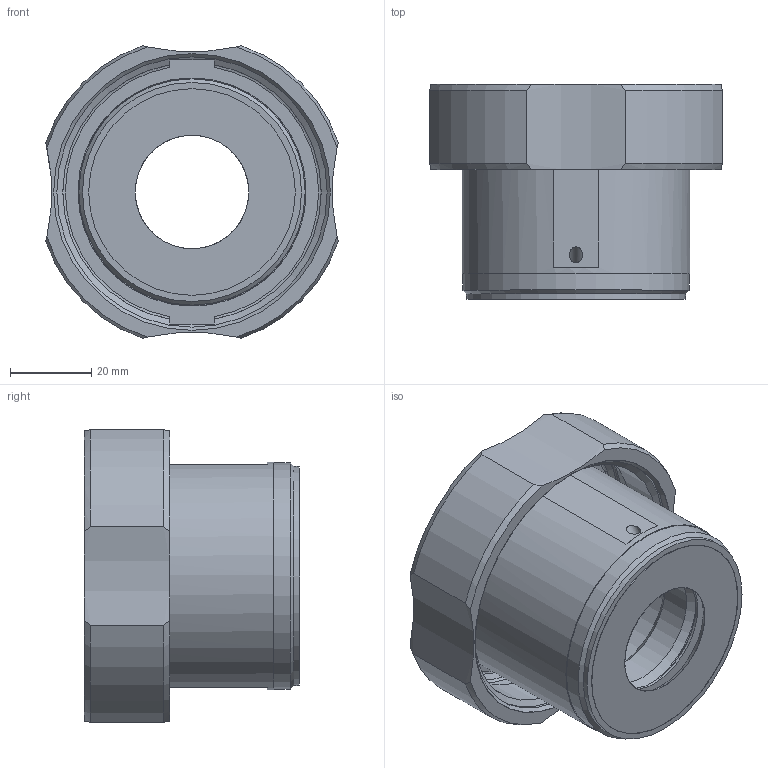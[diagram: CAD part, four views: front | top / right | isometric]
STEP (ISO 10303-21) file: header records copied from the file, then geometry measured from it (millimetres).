
FILE_DESCRIPTION( ( 'STEP AP203' ), '1' );
FILE_NAME( 'p:/temp/worker_17/temp/exporttempdir_752_685_dde1I/format_2/E33350.stp', '2021-05-17T07:07:44', ( 'License CC BY-ND 4.0' ), ( 'CADENAS' ), ' ', 'PARTsolutions', ' ' );
FILE_SCHEMA( ( 'CONFIG_CONTROL_DESIGN' ) );
Length unit declared in the file: millimetre
Products named in the file (1): _E33350
Bounding box: 72 x 53 x 72 mm (x, y, z)
Volume: 98028.1 mm3; surface area: 33866.6 mm2
Topology: 1 solids, 1 shells, 85 faces, 207 edges, 133 vertices
Faces by surface type: plane 31, cylinder 27, cone 16, torus 11
Full cylindrical faces by diameter (mm): 3.2 x1, 27.902 x1, 30.25 x1, 30.292 x1, 30.4 x2, 33.36 x1, 33.7 x1, 38 x1, 39 x1, 50.84 x1, 53.9 x1, 55.7 x1, 56.1 x1, 66.5 x1, 66.8 x1, 68.1 x1
Entity records: 2432 total; most frequent: CARTESIAN_POINT 581, DIRECTION 378, ORIENTED_EDGE 328, AXIS2_PLACEMENT_3D 171, EDGE_CURVE 164, EDGE_LOOP 133, VERTEX_POINT 124, FACE_OUTER_BOUND 110
